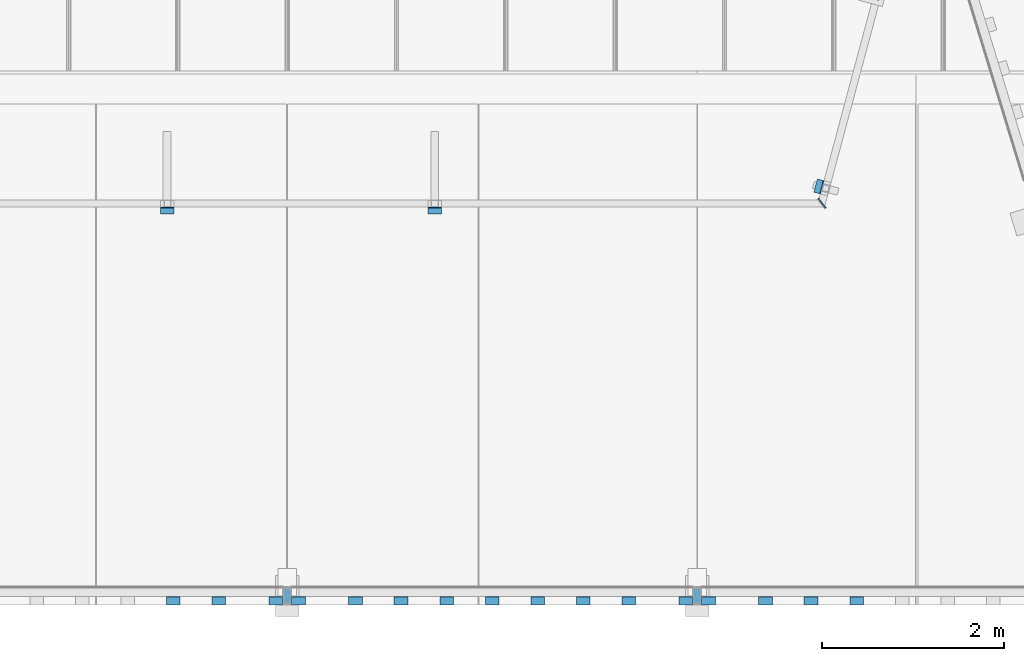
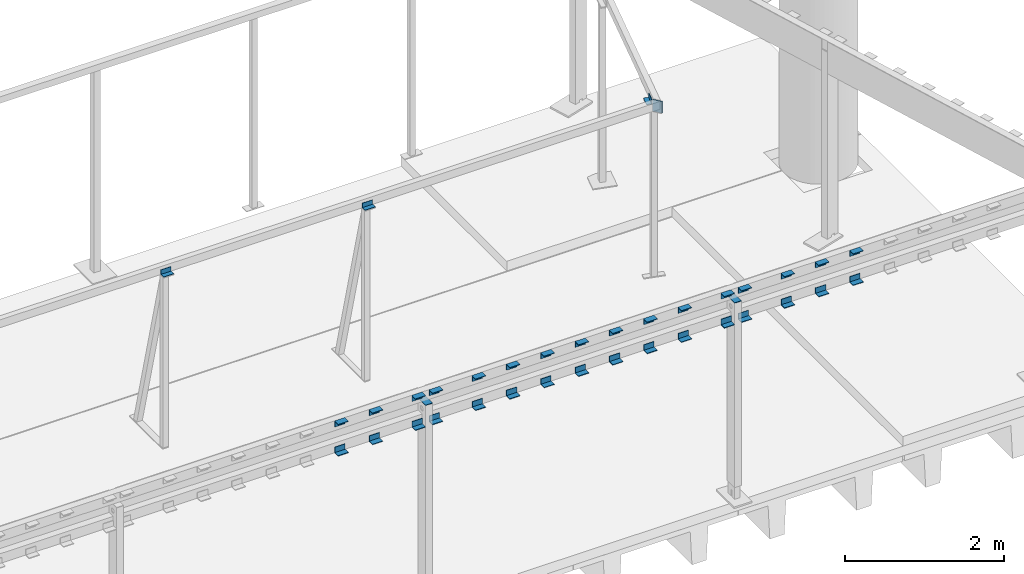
# One storey, part 14 of 19: 38 beams.
"""IFC2X3 building model written with IfcOpenShell, lengths in millimetres."""

from ifc_helpers import new_model, entity, si_unit, converted_unit, derived_unit, direction, frame, origin_with_axes, place, context, subcontext, project, spatial, faceted_brep, material, type_object, element, save


model = new_model("IFC2X3")

# Units and contexts
model_context = context("Model", 3, precision=0.01, world=frame((0.0, 4.29681676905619e-09, 0.0)), true_north=direction((4.01073788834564e-13, 1.0)))
plan_context = context("Plan", 3, precision=0.01, world=frame((0.0, 4.29681676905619e-09, 0.0)), true_north=direction((4.01073788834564e-13, 1.0)))
body_context = subcontext(model_context, "Body", "Model", "MODEL_VIEW")
ifc_project = project(units=[converted_unit("PLANEANGLEUNIT", "DEGREE", entity("IfcPositiveLengthMeasure", 0.0174532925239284), si_unit("PLANEANGLEUNIT", "RADIAN"), dimensions=[0, 0, 0, 0, 0, 0, 0]), si_unit("AREAUNIT", "SQUARE_METRE"), si_unit("LENGTHUNIT", "METRE", prefix="MILLI"), si_unit("MASSUNIT", "GRAM", prefix="KILO"), si_unit("POWERUNIT", "WATT"), si_unit("PRESSUREUNIT", "PASCAL", prefix="KILO"), si_unit("FORCEUNIT", "NEWTON", prefix="KILO"), si_unit("ELECTRICVOLTAGEUNIT", "VOLT"), si_unit("ELECTRICCURRENTUNIT", "AMPERE"), si_unit("THERMODYNAMICTEMPERATUREUNIT", "DEGREE_CELSIUS"), si_unit("TIMEUNIT", "SECOND"), si_unit("VOLUMEUNIT", "CUBIC_METRE"), derived_unit("LINEARVELOCITYUNIT", [(si_unit("LENGTHUNIT", "METRE"), 1), (si_unit("TIMEUNIT", "SECOND"), -1)]), derived_unit("VOLUMETRICFLOWRATEUNIT", [(si_unit("VOLUMEUNIT", "CUBIC_METRE"), 1), (si_unit("TIMEUNIT", "SECOND"), -1)]), derived_unit("THERMALTRANSMITTANCEUNIT", [(si_unit("POWERUNIT", "WATT"), 1), (si_unit("THERMODYNAMICTEMPERATUREUNIT", "KELVIN"), -1), (si_unit("AREAUNIT", "SQUARE_METRE"), -1)]), derived_unit("SOUNDPRESSUREUNIT", [(si_unit("PRESSUREUNIT", "PASCAL"), 1)])], contexts=[model_context, plan_context])

# Site, building, storey
site_placement = place(None, frame((0.0, -4.29681676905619e-09, 0.0), z_axis=(0.0, 0.0, 1.0), x_axis=(1.0, 0.0, 0.0)))
site = spatial("IfcSite", under=ifc_project, at=site_placement, Name="Gardermoen", CompositionType="ELEMENT")
building_placement = place(site_placement, frame((0.0, 4.29681676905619e-09, 0.0), z_axis=(0.0, 0.0, 1.0), x_axis=(1.0, 0.0, 0.0)))
building = spatial("IfcBuilding", under=site, at=building_placement, Name="TI", CompositionType="ELEMENT")
storey_placement = place(building_placement, origin_with_axes())
storey = spatial("IfcBuildingStorey", under=building, at=storey_placement, Name="F", CompositionType="ELEMENT", Elevation=0.0)

# Beams
ifc_material_1 = material(Name="STEEL/S355")
beam_type_1 = type_object("IfcBeamType", Name="PL8*100", PredefinedType="NOTDEFINED")
for number, where, z_axis, x_axis in (
    (1, (596450.000043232, 569930.0, 213740.999618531), (1.0, 0.0, 0.0), (0.0, -1.0, 0.0)),
    (2, (591950.000043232, 569930.0, 213740.99961853), (1.0, 0.0, 0.0), (0.0, -1.0, 0.0)),
):
    element("IfcBeam", number, at=place(storey_placement, frame(where, z_axis=z_axis, x_axis=x_axis)), inside=storey, type_object=beam_type_1, material=ifc_material_1, Name="STÅLBJELKE", ObjectType="PL8*100", context=body_context, shape_type="Brep", body=[
        faceted_brep([(-5.82076609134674e-11, -3.99999999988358, 0.0), (3.95812094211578e-09, -3.99999999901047, 100.000000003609), (4.30736690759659e-09, 4.00000000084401, 100.000000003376), (-5.82076609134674e-11, 4.00000000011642, -5.82076609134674e-11), (199.999999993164, -4.0, 99.9999999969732), (199.999999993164, 4.0, 99.9999999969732), (200.0, -4.0, -1.97906047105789e-09), (200.0, 4.00000000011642, -1.62981450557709e-09)], [[[0, 1, 2, 3]], [[1, 4, 5, 2]], [[4, 6, 7, 5]], [[6, 0, 3, 7]], [[5, 7, 3, 2]], [[6, 4, 1, 0]]]),
    ])
ifc_material_2 = material(Name="STEEL/S355J0")
beam_type_2 = type_object("IfcBeamType", Name="PL10*180", PredefinedType="NOTDEFINED")
beam_placement = place(storey_placement, frame((597910.492532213, 574088.25866395, 213603.010033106), z_axis=(-6.31000554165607e-05, 8.21110719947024e-05, 0.999999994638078), x_axis=(-0.609330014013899, 0.792916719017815, -0.000103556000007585)))
element("IfcBeam", 3, at=beam_placement, inside=storey, type_object=beam_type_2, material=ifc_material_2, Name="STÅLBJELKE", ObjectType="PL10*180", context=body_context, shape_type="Brep", body=[
    faceted_brep([(2.3283064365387e-10, 5.0, -90.0), (2.3283064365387e-10, 5.0, 90.0), (129.993180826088, 4.9999999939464, 90.0000000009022), (129.993180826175, 5.00000000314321, -90.0000000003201), (0.0, -5.0, 90.0), (129.993180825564, -5.00000000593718, 90.0000000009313), (0.0, -5.0, -90.0), (129.99318082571, -4.99999999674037, -90.0000000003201)], [[[0, 1, 2, 3]], [[1, 4, 5, 2]], [[4, 6, 7, 5]], [[6, 0, 3, 7]], [[5, 7, 3, 2]], [[6, 4, 1, 0]]]),
])
beam_type_3 = type_object("IfcBeamType", Name="L90*9", PredefinedType="NOTDEFINED")
for number, where, z_axis, x_axis in (
    (4, (591324.999978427, 569774.999964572, 213450.001068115), (-5.80000057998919e-08, -0.999999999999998, 0.0), (-0.999999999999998, 5.80000057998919e-08, 0.0)),
    (5, (591324.999978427, 569774.999964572, 213850.001068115), (0.0, 0.0, -1.0), (-0.999999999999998, 5.80000057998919e-08, 0.0)),
    (6, (590824.999978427, 569774.999964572, 213450.001068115), (-5.80000057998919e-08, -0.999999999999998, 0.0), (-0.999999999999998, 5.80000057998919e-08, 0.0)),
    (7, (590824.999978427, 569774.999964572, 213850.001068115), (0.0, 0.0, -1.0), (-0.999999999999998, 5.80000057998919e-08, 0.0)),
    (8, (592824.999978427, 569774.999964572, 213450.001068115), (-5.80000057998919e-08, -0.999999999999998, 0.0), (-0.999999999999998, 5.80000057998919e-08, 0.0)),
    (9, (592824.999978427, 569774.999964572, 213850.001068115), (0.0, 0.0, -1.0), (-0.999999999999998, 5.80000057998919e-08, 0.0)),
    (10, (593324.999978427, 569774.999964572, 213450.001068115), (-5.80000057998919e-08, -0.999999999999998, 0.0), (-0.999999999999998, 5.80000057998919e-08, 0.0)),
    (11, (593324.999978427, 569774.999964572, 213850.001068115), (0.0, 0.0, -1.0), (-0.999999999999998, 5.80000057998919e-08, 0.0)),
    (12, (593824.999978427, 569774.999964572, 213450.001068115), (-5.80000057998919e-08, -0.999999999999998, 0.0), (-0.999999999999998, 5.80000057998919e-08, 0.0)),
    (13, (593824.999978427, 569774.999964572, 213850.001068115), (0.0, 0.0, -1.0), (-0.999999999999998, 5.80000057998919e-08, 0.0)),
    (14, (595824.999978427, 569774.999964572, 213450.001068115), (-5.80000057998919e-08, -0.999999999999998, 0.0), (-0.999999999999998, 5.80000057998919e-08, 0.0)),
    (15, (595824.999978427, 569774.999964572, 213850.001068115), (0.0, 0.0, -1.0), (-0.999999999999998, 5.80000057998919e-08, 0.0)),
    (16, (595324.999978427, 569774.999964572, 213450.001068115), (-5.80000057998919e-08, -0.999999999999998, 0.0), (-0.999999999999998, 5.80000057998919e-08, 0.0)),
    (17, (595324.999978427, 569774.999964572, 213850.001068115), (0.0, 0.0, -1.0), (-0.999999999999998, 5.80000057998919e-08, 0.0)),
    (18, (594824.999978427, 569774.999964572, 213450.001068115), (-5.80000057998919e-08, -0.999999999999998, 0.0), (-0.999999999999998, 5.80000057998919e-08, 0.0)),
    (19, (594824.999978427, 569774.999964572, 213850.001068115), (0.0, 0.0, -1.0), (-0.999999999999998, 5.80000057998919e-08, 0.0)),
    (20, (594324.999978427, 569774.999964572, 213450.001068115), (-5.80000057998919e-08, -0.999999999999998, 0.0), (-0.999999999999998, 5.80000057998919e-08, 0.0)),
    (21, (594324.999978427, 569774.999964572, 213850.001068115), (0.0, 0.0, -1.0), (-0.999999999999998, 5.80000057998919e-08, 0.0)),
    (22, (597324.999978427, 569774.999964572, 213450.001068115), (-5.80000057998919e-08, -0.999999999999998, 0.0), (-0.999999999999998, 5.80000057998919e-08, 0.0)),
    (23, (597324.999978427, 569774.999964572, 213850.001068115), (0.0, 0.0, -1.0), (-0.999999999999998, 5.80000057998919e-08, 0.0)),
    (24, (597824.999978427, 569774.999964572, 213450.001068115), (-5.80000057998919e-08, -0.999999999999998, 0.0), (-0.999999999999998, 5.80000057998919e-08, 0.0)),
    (25, (597824.999978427, 569774.999964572, 213850.001068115), (0.0, 0.0, -1.0), (-0.999999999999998, 5.80000057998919e-08, 0.0)),
    (26, (598324.999978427, 569774.999964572, 213450.001068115), (-5.80000057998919e-08, -0.999999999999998, 0.0), (-0.999999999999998, 5.80000057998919e-08, 0.0)),
    (27, (598324.999978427, 569774.999964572, 213850.001068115), (0.0, 0.0, -1.0), (-0.999999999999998, 5.80000057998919e-08, 0.0)),
    (28, (592199.999978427, 569774.999964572, 213450.001068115), (-5.80000057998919e-08, -0.999999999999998, 0.0), (-0.999999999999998, 5.80000057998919e-08, 0.0)),
    (29, (592199.999978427, 569774.999964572, 213850.001068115), (0.0, 0.0, -1.0), (-0.999999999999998, 5.80000057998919e-08, 0.0)),
    (30, (591949.999978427, 569774.999964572, 213450.001068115), (-5.80000057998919e-08, -0.999999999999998, 0.0), (-0.999999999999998, 5.80000057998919e-08, 0.0)),
    (31, (591949.999978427, 569774.999964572, 213850.001068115), (0.0, 0.0, -1.0), (-0.999999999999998, 5.80000057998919e-08, 0.0)),
    (32, (596699.999978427, 569774.999964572, 213450.001068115), (-5.80000057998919e-08, -0.999999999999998, 0.0), (-0.999999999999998, 5.80000057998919e-08, 0.0)),
    (33, (596699.999978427, 569774.999964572, 213850.001068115), (0.0, 0.0, -1.0), (-0.999999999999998, 5.80000057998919e-08, 0.0)),
    (34, (596449.999978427, 569774.999964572, 213450.001068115), (-5.80000057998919e-08, -0.999999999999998, 0.0), (-0.999999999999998, 5.80000057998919e-08, 0.0)),
    (35, (596449.999978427, 569774.999964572, 213850.001068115), (0.0, 0.0, -1.0), (-0.999999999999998, 5.80000057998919e-08, 0.0)),
):
    element("IfcBeam", number, at=place(storey_placement, frame(where, z_axis=z_axis, x_axis=x_axis)), inside=storey, type_object=beam_type_3, material=ifc_material_1, Name="STÅLBJELKE", ObjectType="L90*9", context=body_context, shape_type="Brep", body=[
        faceted_brep([(0.0, 45.0, -45.0), (0.0, 45.0, 45.0), (149.994660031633, 45.0, 44.9999999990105), (149.994660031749, 45.0, -44.9999999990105), (8.14907252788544e-10, 36.0, 44.9999999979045), (149.994660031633, 36.0, 44.9999999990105), (-4.65661287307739e-10, 36.0, -35.9999999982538), (149.994660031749, 36.0, -35.9999999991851), (-4.65661287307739e-10, -45.0, -35.9999999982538), (149.994660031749, -45.0, -35.9999999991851), (0.0, -45.0, -45.0), (149.994660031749, -45.0, -44.9999999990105)], [[[0, 1, 2, 3]], [[1, 4, 5, 2]], [[4, 6, 7, 5]], [[6, 8, 9, 7]], [[8, 10, 11, 9]], [[10, 0, 3, 11]], [[5, 7, 9, 11, 3, 2]], [[10, 8, 6, 4, 1, 0]]]),
    ])
beam_type_4 = type_object("IfcBeamType", Name="L75*8", PredefinedType="NOTDEFINED")
for number, where, z_axis, x_axis in (
    (36, (597817.424512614, 574250.723450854, 213615.499732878), (-0.965934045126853, 0.258788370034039, 0.0), (0.258788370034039, 0.965934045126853, 0.0)),
    (37, (593695.227947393, 574059.257526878, 213615.499732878), (-3.17410001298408e-05, -0.999999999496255, 0.0), (-0.999999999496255, 3.17410001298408e-05, 0.0)),
    (38, (590760.227947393, 574059.257526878, 213615.499732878), (-3.17410001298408e-05, -0.999999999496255, 0.0), (-0.999999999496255, 3.17410001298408e-05, 0.0)),
):
    element("IfcBeam", number, at=place(storey_placement, frame(where, z_axis=z_axis, x_axis=x_axis)), inside=storey, type_object=beam_type_4, material=ifc_material_2, Name="STÅLBJELKE", ObjectType="L75*8", context=body_context, shape_type="Brep", body=[
        faceted_brep([(1.10594555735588e-09, 37.5, -37.4999999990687), (-1.33877620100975e-09, 37.5, 37.4999999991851), (149.998275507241, 37.5, 37.4999999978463), (149.998275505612, 37.5, -37.5000000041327), (-1.33877620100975e-09, 29.5, 37.4999999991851), (149.998275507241, 29.5, 37.4999999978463), (8.73114913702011e-10, 29.5, -29.4999999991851), (149.998275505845, 29.5, -29.5000000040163), (8.73114913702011e-10, -37.5, -29.4999999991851), (149.998275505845, -37.5, -29.5000000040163), (1.10594555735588e-09, -37.5, -37.4999999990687), (149.998275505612, -37.5, -37.5000000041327)], [[[0, 1, 2, 3]], [[1, 4, 5, 2]], [[4, 6, 7, 5]], [[6, 8, 9, 7]], [[8, 10, 11, 9]], [[10, 0, 3, 11]], [[5, 7, 9, 11, 3, 2]], [[10, 8, 6, 4, 1, 0]]]),
    ])

save(model, "model.ifc")
